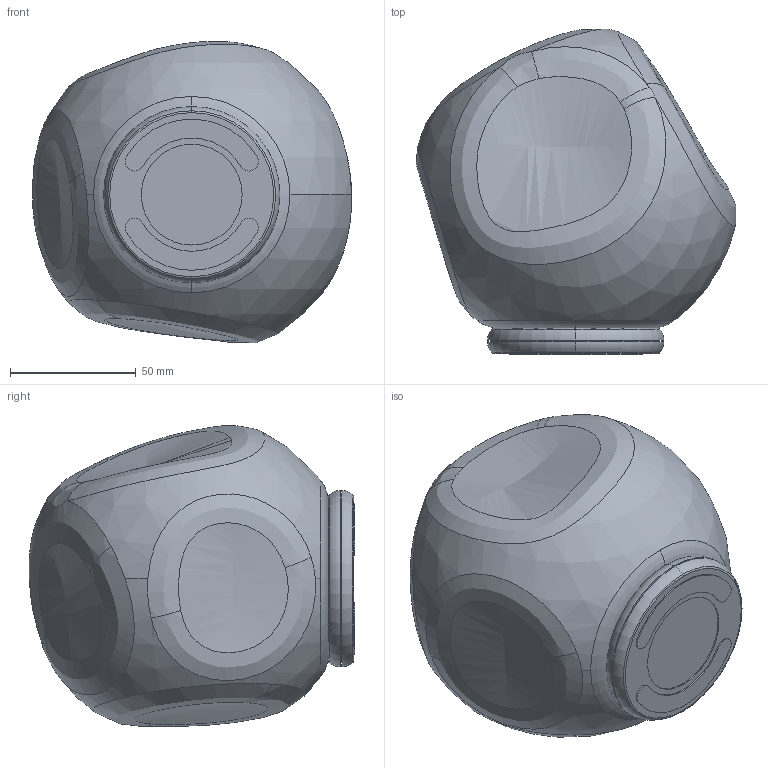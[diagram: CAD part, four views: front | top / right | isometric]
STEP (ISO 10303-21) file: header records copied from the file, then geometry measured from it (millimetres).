
FILE_DESCRIPTION (( 'STEP AP203' ), '1' );
FILE_NAME ('325_PICCOLA_T_PL_3D.STEP', '2023-12-13T11:26:11', ( '' ), ( '' ), 'SwSTEP 2.0', 'SolidWorks 2023', '' );
FILE_SCHEMA (( 'CONFIG_CONTROL_DESIGN' ));
Length unit declared in the file: millimetre
Products named in the file (1): 325_PICCOLA_T_PL_3D
Bounding box: 126.81 x 129.27 x 119.57 mm (x, y, z)
Volume: 84767 mm3; surface area: 106315 mm2
Topology: 2 solids, 2 shells, 79 faces, 190 edges, 122 vertices
Faces by surface type: bspline 34, cylinder 18, torus 12, plane 9, sphere 6
Entity records: 16326 total; most frequent: CARTESIAN_POINT 14591, ORIENTED_EDGE 372, DIRECTION 310, EDGE_CURVE 186, AXIS2_PLACEMENT_3D 146, VERTEX_POINT 120, CIRCLE 100, EDGE_LOOP 88
